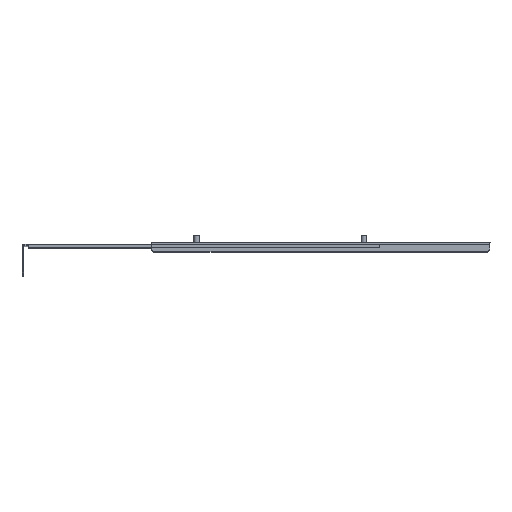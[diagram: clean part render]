
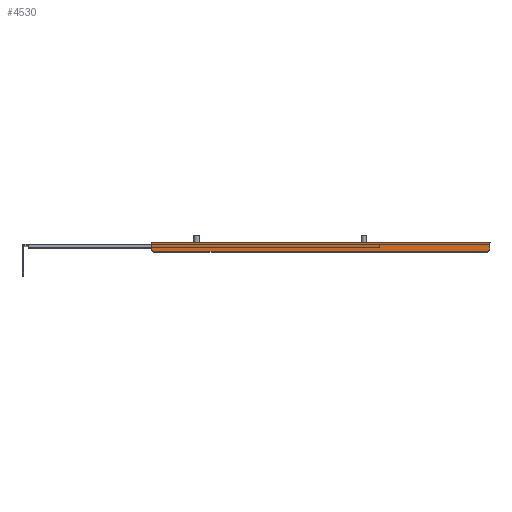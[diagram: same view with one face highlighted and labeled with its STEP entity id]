
A CAD part, top view. The second image highlights one B-rep face of the part: STEP entity #4530.
In plain terms, the highlighted planar face has unit normal (0, 0, 1).
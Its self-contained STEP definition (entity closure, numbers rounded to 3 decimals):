
#197 = LINE ( 'NONE', #813, #5068 ) ;
#300 = LINE ( 'NONE', #5609, #488 ) ;
#366 = DIRECTION ( 'NONE',  ( 0., 0., -1. ) ) ;
#488 = VECTOR ( 'NONE', #5649, 1000. ) ;
#500 = DIRECTION ( 'NONE',  ( 0., -1., 0. ) ) ;
#813 = CARTESIAN_POINT ( 'NONE',  ( 0., 0.5, 297.25 ) ) ;
#840 = LINE ( 'NONE', #1529, #2993 ) ;
#1032 = DIRECTION ( 'NONE',  ( -1., 0., 0. ) ) ;
#1304 = ORIENTED_EDGE ( 'NONE', *, *, #7595, .F. ) ;
#1415 = EDGE_CURVE ( 'NONE', #4264, #5225, #2964, .T. ) ;
#1529 = CARTESIAN_POINT ( 'NONE',  ( -303.5, 1.5, 297.25 ) ) ;
#2062 = CARTESIAN_POINT ( 'NONE',  ( -303.5, -5., 297.25 ) ) ;
#2313 = CARTESIAN_POINT ( 'NONE',  ( -303.5, -3., 297.25 ) ) ;
#2319 = CARTESIAN_POINT ( 'NONE',  ( 0., 0.5, 297.25 ) ) ;
#2328 = CARTESIAN_POINT ( 'NONE',  ( 0., -3., 297.25 ) ) ;
#2380 = EDGE_CURVE ( 'NONE', #4441, #3811, #840, .T. ) ;
#2637 = ORIENTED_EDGE ( 'NONE', *, *, #6160, .T. ) ;
#2664 = CARTESIAN_POINT ( 'NONE',  ( -2., -5., 297.25 ) ) ;
#2828 = CARTESIAN_POINT ( 'NONE',  ( -303.5, 0., 297.25 ) ) ;
#2870 = CARTESIAN_POINT ( 'NONE',  ( -301.5, -5., 297.25 ) ) ;
#2964 = LINE ( 'NONE', #3090, #6748 ) ;
#2972 = ORIENTED_EDGE ( 'NONE', *, *, #8495, .F. ) ;
#2993 = VECTOR ( 'NONE', #8007, 1000. ) ;
#3090 = CARTESIAN_POINT ( 'NONE',  ( 0., -3., 297.25 ) ) ;
#3096 = LINE ( 'NONE', #5677, #4625 ) ;
#3136 = DIRECTION ( 'NONE',  ( 0.707, 0.707, 0. ) ) ;
#3302 = VERTEX_POINT ( 'NONE', #2319 ) ;
#3525 = DIRECTION ( 'NONE',  ( 0., 1., 0. ) ) ;
#3570 = LINE ( 'NONE', #2828, #5427 ) ;
#3699 = ORIENTED_EDGE ( 'NONE', *, *, #6434, .F. ) ;
#3753 = ORIENTED_EDGE ( 'NONE', *, *, #6484, .T. ) ;
#3811 = VERTEX_POINT ( 'NONE', #4624 ) ;
#3824 = PLANE ( 'NONE',  #8227 ) ;
#3873 = CARTESIAN_POINT ( 'NONE',  ( 0., 0., 297.25 ) ) ;
#4089 = LINE ( 'NONE', #2062, #8228 ) ;
#4264 = VERTEX_POINT ( 'NONE', #2664 ) ;
#4441 = VERTEX_POINT ( 'NONE', #2313 ) ;
#4530 = ADVANCED_FACE ( 'NONE', ( #5626 ), #3824, .F. ) ;
#4624 = CARTESIAN_POINT ( 'NONE',  ( -303.5, 0.5, 297.25 ) ) ;
#4625 = VECTOR ( 'NONE', #1032, 1000. ) ;
#4715 = ORIENTED_EDGE ( 'NONE', *, *, #2380, .F. ) ;
#5068 = VECTOR ( 'NONE', #7492, 1000. ) ;
#5225 = VERTEX_POINT ( 'NONE', #2328 ) ;
#5427 = VECTOR ( 'NONE', #3525, 1000. ) ;
#5503 = DIRECTION ( 'NONE',  ( -1., 0., 0. ) ) ;
#5548 = ORIENTED_EDGE ( 'NONE', *, *, #6470, .T. ) ;
#5609 = CARTESIAN_POINT ( 'NONE',  ( 0., -5., 297.25 ) ) ;
#5617 = CARTESIAN_POINT ( 'NONE',  ( 0., 3., 297.25 ) ) ;
#5626 = FACE_OUTER_BOUND ( 'NONE', #6730, .T. ) ;
#5649 = DIRECTION ( 'NONE',  ( 0., -1., 0. ) ) ;
#5677 = CARTESIAN_POINT ( 'NONE',  ( 0., 3., 297.25 ) ) ;
#5748 = VERTEX_POINT ( 'NONE', #5617 ) ;
#6160 = EDGE_CURVE ( 'NONE', #5748, #8221, #3096, .T. ) ;
#6434 = EDGE_CURVE ( 'NONE', #4264, #6645, #4089, .T. ) ;
#6470 = EDGE_CURVE ( 'NONE', #4441, #6645, #6716, .T. ) ;
#6484 = EDGE_CURVE ( 'NONE', #3302, #5748, #197, .T. ) ;
#6566 = CARTESIAN_POINT ( 'NONE',  ( -303.5, 3., 297.25 ) ) ;
#6645 = VERTEX_POINT ( 'NONE', #7054 ) ;
#6670 = DIRECTION ( 'NONE',  ( 0.707, -0.707, 0. ) ) ;
#6716 = LINE ( 'NONE', #2870, #6846 ) ;
#6730 = EDGE_LOOP ( 'NONE', ( #4715, #5548, #3699, #7725, #2972, #3753, #2637, #1304 ) ) ;
#6748 = VECTOR ( 'NONE', #3136, 1000. ) ;
#6846 = VECTOR ( 'NONE', #6670, 1000. ) ;
#7054 = CARTESIAN_POINT ( 'NONE',  ( -301.5, -5., 297.25 ) ) ;
#7492 = DIRECTION ( 'NONE',  ( 0., 1., 0. ) ) ;
#7595 = EDGE_CURVE ( 'NONE', #3811, #8221, #3570, .T. ) ;
#7725 = ORIENTED_EDGE ( 'NONE', *, *, #1415, .T. ) ;
#8007 = DIRECTION ( 'NONE',  ( 0., 1., 0. ) ) ;
#8221 = VERTEX_POINT ( 'NONE', #6566 ) ;
#8227 = AXIS2_PLACEMENT_3D ( 'NONE', #3873, #366, #500 ) ;
#8228 = VECTOR ( 'NONE', #5503, 1000. ) ;
#8495 = EDGE_CURVE ( 'NONE', #3302, #5225, #300, .T. ) ;
